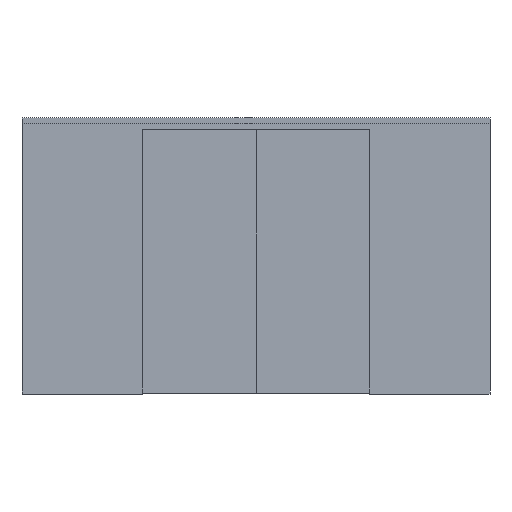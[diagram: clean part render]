
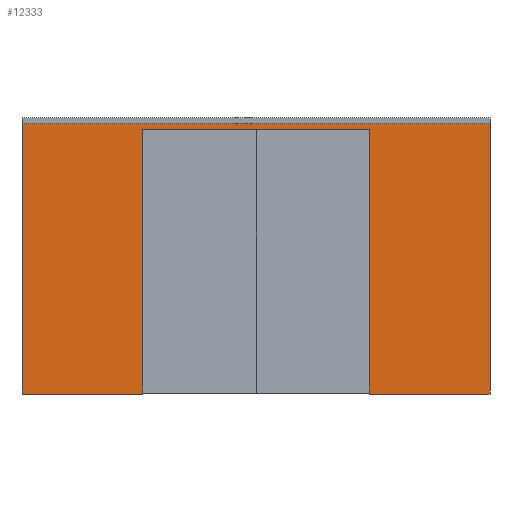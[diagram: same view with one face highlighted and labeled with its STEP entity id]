
A CAD part, front view. The second image highlights one B-rep face of the part: STEP entity #12333.
In plain terms, the highlighted planar face has unit normal (0, -1, 0).
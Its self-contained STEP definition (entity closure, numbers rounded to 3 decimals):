
#12333=ADVANCED_FACE('',(#20966),#20967,.F.);
#20966=FACE_OUTER_BOUND('',#33869,.T.);
#20967=PLANE('',#33870);
#33869=EDGE_LOOP('',(#39009,#39010,#39011,#39012,#39013,#39014,#39015,#39016));
#33870=AXIS2_PLACEMENT_3D('',#39017,#39018,#39019);
#39009=ORIENTED_EDGE('',*,*,#49492,.F.);
#39010=ORIENTED_EDGE('',*,*,#49482,.F.);
#39011=ORIENTED_EDGE('',*,*,#49486,.F.);
#39012=ORIENTED_EDGE('',*,*,#49490,.T.);
#39013=ORIENTED_EDGE('',*,*,#49493,.F.);
#39014=ORIENTED_EDGE('',*,*,#49475,.F.);
#39015=ORIENTED_EDGE('',*,*,#49471,.T.);
#39016=ORIENTED_EDGE('',*,*,#49467,.T.);
#39017=CARTESIAN_POINT('',(0.0,-44.,2333.0));
#39018=DIRECTION('',(0.0,1.0,-0.0));
#39019=DIRECTION('',(0.0,0.0,1.0));
#49467=EDGE_CURVE('',#55831,#55828,#55832,.T.);
#49471=EDGE_CURVE('',#55837,#55831,#55838,.T.);
#49475=EDGE_CURVE('',#55837,#55843,#55844,.T.);
#49482=EDGE_CURVE('',#55854,#55849,#55856,.T.);
#49486=EDGE_CURVE('',#55860,#55854,#55862,.T.);
#49490=EDGE_CURVE('',#55860,#55866,#55868,.T.);
#49492=EDGE_CURVE('',#55849,#55828,#55870,.T.);
#49493=EDGE_CURVE('',#55843,#55866,#55871,.T.);
#55828=VERTEX_POINT('',#57554);
#55831=VERTEX_POINT('',#57558);
#55832=LINE('',#57559,#57560);
#55837=VERTEX_POINT('',#57567);
#55838=LINE('',#57568,#57569);
#55843=VERTEX_POINT('',#57576);
#55844=LINE('',#57577,#57578);
#55849=VERTEX_POINT('',#57585);
#55854=VERTEX_POINT('',#57592);
#55856=LINE('',#57595,#57596);
#55860=VERTEX_POINT('',#57601);
#55862=LINE('',#57604,#57605);
#55866=VERTEX_POINT('',#57610);
#55868=LINE('',#57613,#57614);
#55870=LINE('',#57616,#57617);
#55871=LINE('',#57618,#57619);
#57554=CARTESIAN_POINT('',(-995.0,-44.,2314.0));
#57558=CARTESIAN_POINT('',(-995.0,-44.,0.0));
#57559=CARTESIAN_POINT('',(-995.0,-44.,7.0));
#57560=VECTOR('',#59684,1.0);
#57567=CARTESIAN_POINT('',(-2050.0,-44.,0.0));
#57568=CARTESIAN_POINT('',(-1327.5,-44.,0.0));
#57569=VECTOR('',#59687,1.0);
#57576=CARTESIAN_POINT('',(-2050.0,-44.,2368.0));
#57577=CARTESIAN_POINT('',(-2050.0,-44.,7.0));
#57578=VECTOR('',#59690,1.0);
#57585=CARTESIAN_POINT('',(995.0,-44.,2314.0));
#57592=CARTESIAN_POINT('',(995.0,-44.,0.0));
#57595=CARTESIAN_POINT('',(995.0,-44.,7.0));
#57596=VECTOR('',#59696,1.0);
#57601=CARTESIAN_POINT('',(2050.0,-44.,0.0));
#57604=CARTESIAN_POINT('',(1327.5,-44.,0.0));
#57605=VECTOR('',#59699,1.0);
#57610=CARTESIAN_POINT('',(2050.0,-44.,2368.0));
#57613=CARTESIAN_POINT('',(2050.0,-44.,7.0));
#57614=VECTOR('',#59702,1.0);
#57616=CARTESIAN_POINT('',(0.0,-44.,2314.0));
#57617=VECTOR('',#59703,1.0);
#57618=CARTESIAN_POINT('',(1270.0,-44.,2368.0));
#57619=VECTOR('',#59704,1.0);
#59684=DIRECTION('',(0.0,0.0,1.0));
#59687=DIRECTION('',(1.0,0.0,0.0));
#59690=DIRECTION('',(0.0,0.0,1.0));
#59696=DIRECTION('',(0.0,0.0,1.0));
#59699=DIRECTION('',(-1.0,0.0,0.0));
#59702=DIRECTION('',(0.0,0.0,1.0));
#59703=DIRECTION('',(-1.0,0.0,0.0));
#59704=DIRECTION('',(1.0,0.0,0.0));
